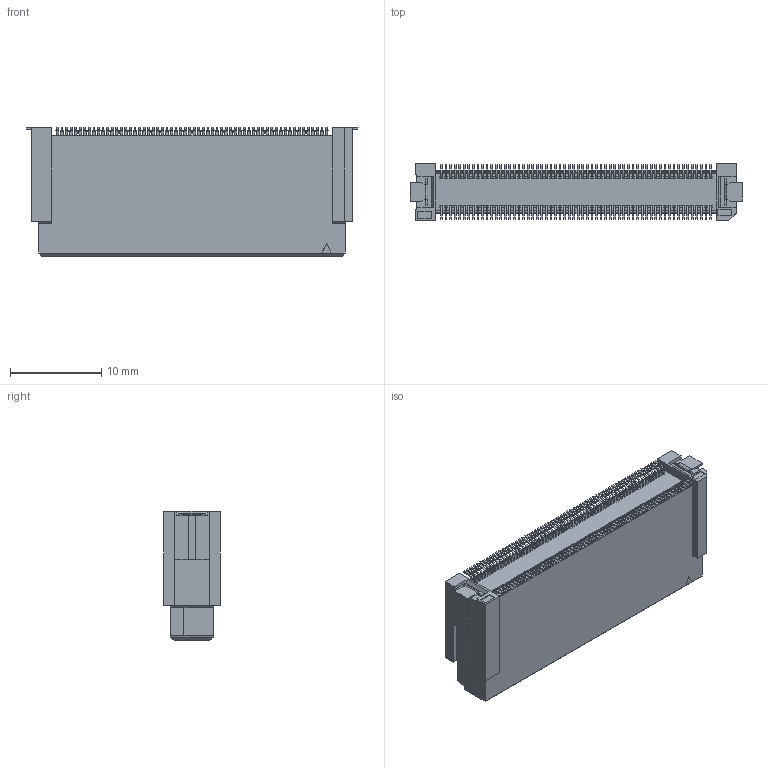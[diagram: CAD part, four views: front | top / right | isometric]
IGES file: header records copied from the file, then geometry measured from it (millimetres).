
Start section: Elysium IGES Interface
Global section: file name: 108HG:\その他\DT関連\【59期以前】\DT_CADﾃﾞｰﾀ\DT_3DCAD(客先提出用)\プラグ\-16\web用\igs\P3D900_DT10-120S-16-T.igs; native system: Creo Elements/Direct Modeling 20.2  28-Feb-2019; preprocessor: Creo Element/Direct IGES_3D V2.2; author: Unknown; organization: Unknown; date: 20220317.183151; units: millimetre
Bounding box: 36.4 x 6.2 x 14.18 mm (x, y, z)
Volume: 2092.7 mm3; surface area: 1954.6 mm2
Topology: 1 solids, 1 shells, 3518 faces, 9902 edges, 6512 vertices
Faces by surface type: bspline 3518
